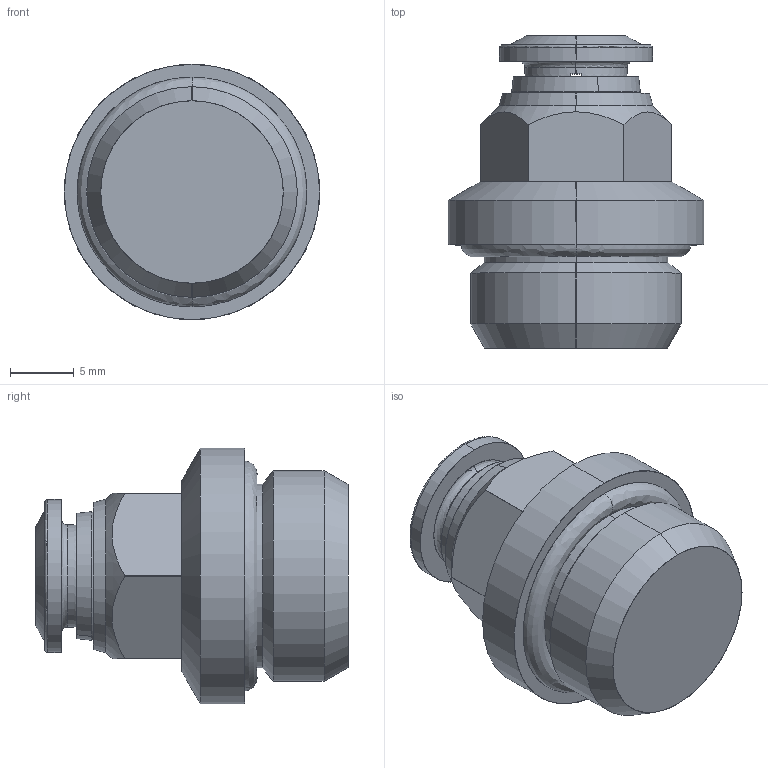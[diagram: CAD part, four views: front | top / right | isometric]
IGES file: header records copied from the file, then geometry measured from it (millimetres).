
Start section: SolidWorks IGES file using analytic representation for surfaces
Global section: file name: K:\Disegni Esecutivi\SERIE 57000\ASSIEMI_57000\57020\ASSIEMI_.IGES_57020\5702000027A.IGS; native system: SolidWorks 2016; preprocessor: SolidWorks 2016; author: cad06; date: 210407.112905; units: millimetre
Bounding box: 20 x 24.5 x 20 mm (x, y, z)
Surface area: 2147.5 mm2 (no closed solid volume)
Topology: 0 solids, 0 shells, 67 faces, 866 edges, 866 vertices
Faces by surface type: revolution 40, bspline 27
